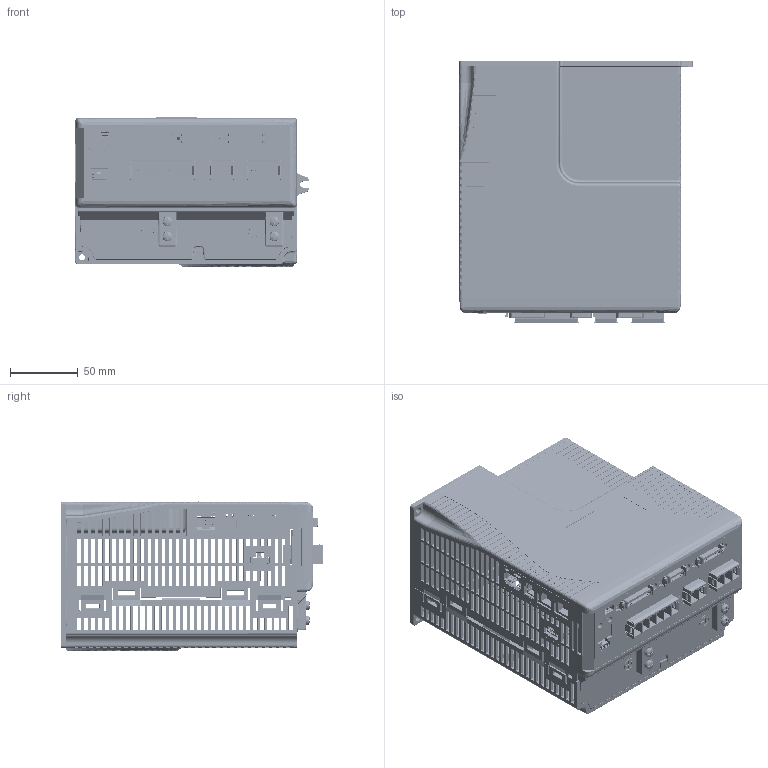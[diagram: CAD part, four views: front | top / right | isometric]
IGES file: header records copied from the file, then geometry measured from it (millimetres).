
Start section: SolidWorks IGES file using analytic representation for surfaces
Global section: file name: H:\ANaivelt\Roni\CDHD Catalog\CDHD_400V\CDHV 6A\CDHD-6A HV_cat.IGS; native system: SolidWorks 2009; preprocessor: SolidWorks 2009; author: Alexander.Naivelt; date: 140522.185353; units: millimetre
Bounding box: 172.17 x 193.12 x 110 mm (x, y, z)
Surface area: 327858.8 mm2 (no closed solid volume)
Topology: 0 solids, 0 shells, 12283 faces, 90323 edges, 90256 vertices
Faces by surface type: bspline 9753, revolution 2530
